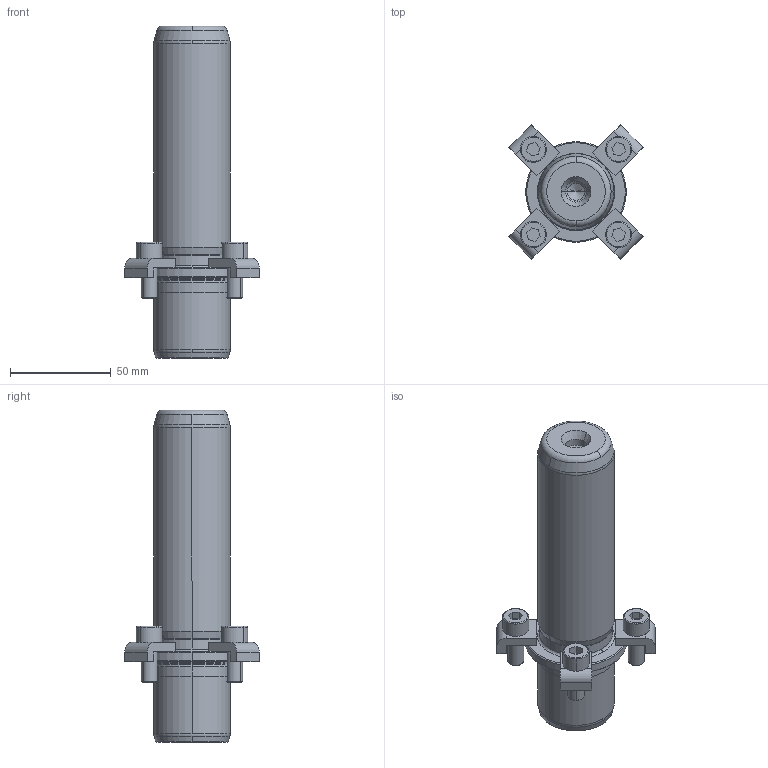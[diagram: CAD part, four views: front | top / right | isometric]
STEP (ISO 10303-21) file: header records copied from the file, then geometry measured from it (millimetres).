
FILE_DESCRIPTION((''),'2;1');
FILE_NAME('P21_038_125.stp','2008-12-23T10:52:46',(''),(''),'Mechanical Desktop 2009','Mechanical Desktop 2009',', , ');
FILE_SCHEMA(('CONFIG_CONTROL_DESIGN'));
Length unit declared in the file: millimetre
Products named in the file (2): Product; blmdl1
Assembly tree (1 placements, depth 2):
  Product
    blmdl1
Bounding box: 66.82 x 66.82 x 165 mm (x, y, z)
Volume: 198059.5 mm3; surface area: 34034.4 mm2
Topology: 9 solids, 9 shells, 195 faces, 477 edges, 309 vertices
Faces by surface type: plane 77, cylinder 52, cone 34, torus 16, bspline 16
Entity records: 6547 total; most frequent: CARTESIAN_POINT 1683, DIRECTION 1078, ORIENTED_EDGE 946, EDGE_CURVE 473, AXIS2_PLACEMENT_3D 424, VERTEX_POINT 309, CIRCLE 243, VECTOR 230
